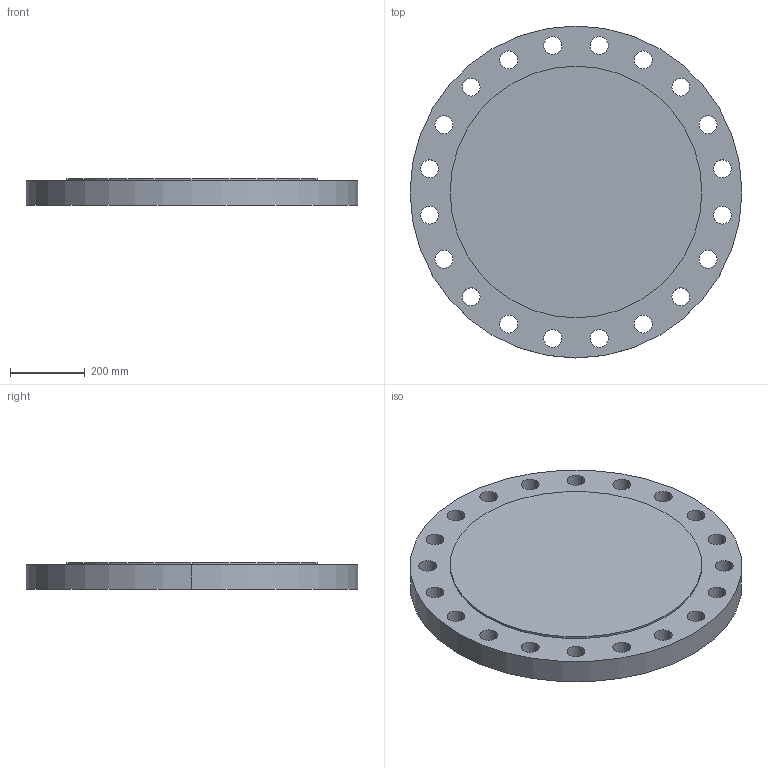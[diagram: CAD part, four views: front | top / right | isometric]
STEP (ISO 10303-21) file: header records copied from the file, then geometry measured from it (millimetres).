
FILE_DESCRIPTION (( 'STEP AP214' ), '1' );
FILE_NAME ('PN40 DN600 Type 05 - Type E Face.STEP', '2018-12-28T23:14:06', ( '' ), ( '' ), 'SwSTEP 2.0', 'SolidWorks 2019', '' );
FILE_SCHEMA (( 'AUTOMOTIVE_DESIGN' ));
Length unit declared in the file: millimetre
Products named in the file (1): PN40 DN600 Type 05 - Type E Face
Bounding box: 890 x 890 x 72 mm (x, y, z)
Volume: 40932020.8 mm3; surface area: 1570003.1 mm2
Topology: 1 solids, 1 shells, 47 faces, 132 edges, 88 vertices
Faces by surface type: cylinder 44, plane 3
Entity records: 1688 total; most frequent: DIRECTION 316, CARTESIAN_POINT 268, ORIENTED_EDGE 264, AXIS2_PLACEMENT_3D 136, EDGE_CURVE 132, CIRCLE 88, VERTEX_POINT 88, EDGE_LOOP 88
